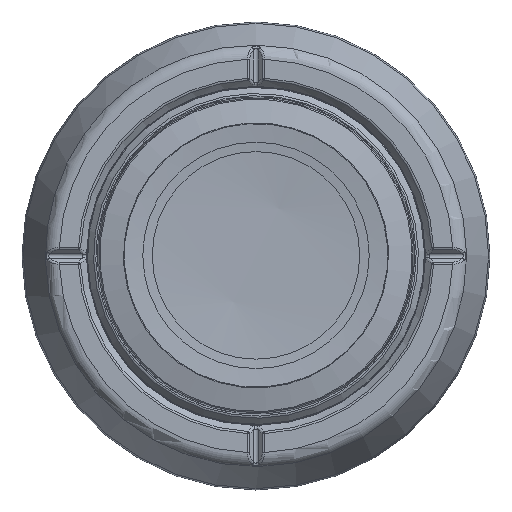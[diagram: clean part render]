
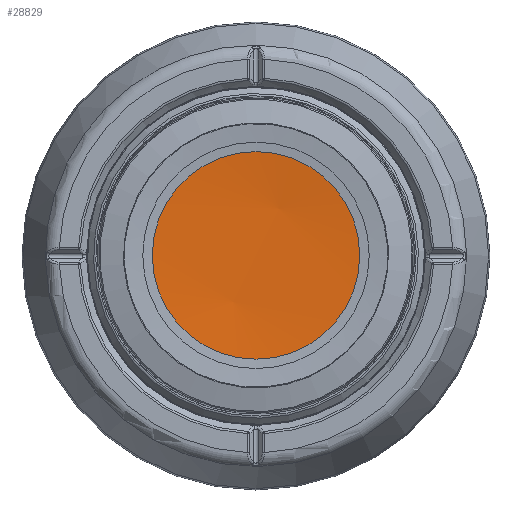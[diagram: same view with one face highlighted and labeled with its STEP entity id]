
A CAD part, top view. The second image highlights one B-rep face of the part: STEP entity #28829.
In plain terms, the highlighted spherical face has radius 143.2 mm.
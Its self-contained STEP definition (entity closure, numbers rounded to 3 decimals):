
#328=SPHERICAL_SURFACE('',#31056,143.2);
#1702=CIRCLE('',#31057,13.75);
#3157=FACE_OUTER_BOUND('',#4996,.T.);
#4996=EDGE_LOOP('',(#21449));
#12708=VERTEX_POINT('',#45607);
#15933=EDGE_CURVE('',#12708,#12708,#1702,.T.);
#21449=ORIENTED_EDGE('',*,*,#15933,.T.);
#28829=ADVANCED_FACE('',(#3157),#328,.F.);
#31056=AXIS2_PLACEMENT_3D('',#45606,#35678,#35679);
#31057=AXIS2_PLACEMENT_3D('',#45608,#35680,#35681);
#35678=DIRECTION('center_axis',(0.898,-0.441,0.));
#35679=DIRECTION('ref_axis',(0.441,0.898,0.));
#35680=DIRECTION('center_axis',(0.,0.,1.));
#35681=DIRECTION('ref_axis',(1.,0.,0.));
#45606=CARTESIAN_POINT('Origin',(0.,0.,
182.025));
#45607=CARTESIAN_POINT('',(-13.75,0.,39.487));
#45608=CARTESIAN_POINT('Origin',(0.,0.,
39.487));
